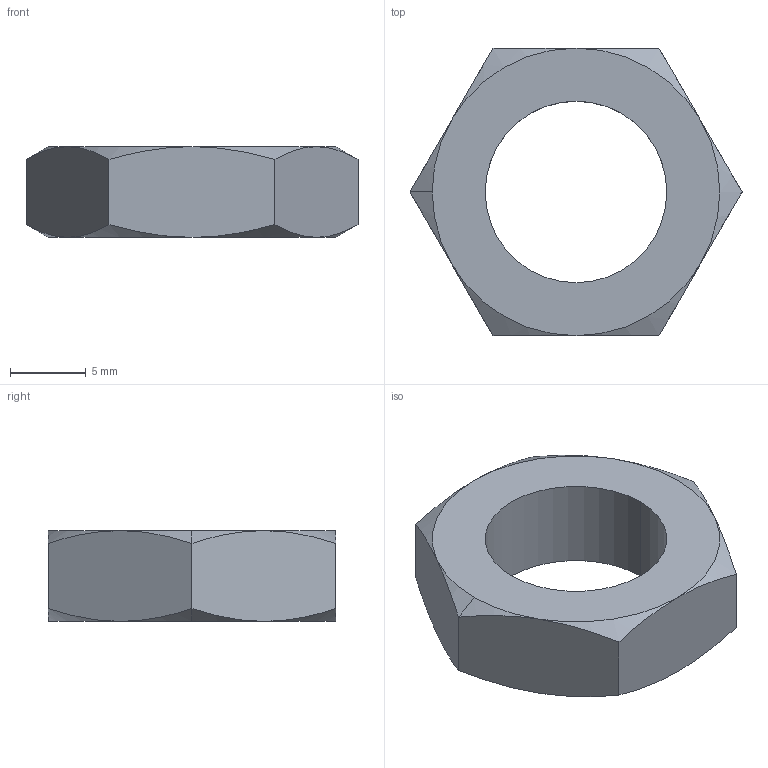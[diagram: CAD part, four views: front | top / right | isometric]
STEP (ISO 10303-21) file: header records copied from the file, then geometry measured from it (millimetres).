
FILE_DESCRIPTION (( 'STEP AP203' ), '1' );
FILE_NAME ('32700.W0116.step', '2011-03-28T12:07:16', ( 'Wixroyd' ), ( 'Wixroyd' ), 'SwSTEP 2.0', 'SolidWorks 2009', '' );
FILE_SCHEMA (( 'CONFIG_CONTROL_DESIGN' ));
Length unit declared in the file: millimetre
Products named in the file (1): 32700.W0116
Bounding box: 21.94 x 19 x 6 mm (x, y, z)
Volume: 1182.3 mm3; surface area: 990.9 mm2
Topology: 1 solids, 1 shells, 24 faces, 52 edges, 30 vertices
Faces by surface type: cone 14, plane 8, cylinder 2
Entity records: 819 total; most frequent: CARTESIAN_POINT 251, ORIENTED_EDGE 104, DIRECTION 96, EDGE_CURVE 52, AXIS2_PLACEMENT_3D 43, VERTEX_POINT 30, EDGE_LOOP 26, ADVANCED_FACE 24
